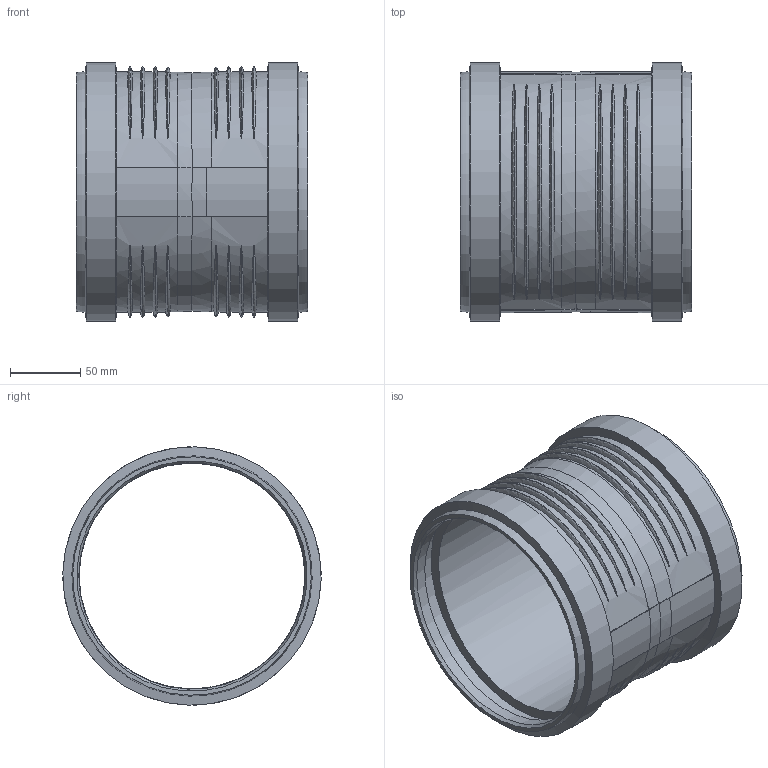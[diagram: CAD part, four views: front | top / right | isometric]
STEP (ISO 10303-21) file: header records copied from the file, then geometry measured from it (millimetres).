
FILE_DESCRIPTION(/* description */ (''),/* implementation_level */ '2;1');
FILE_NAME(/* name */ '390717.stp',/* time_stamp */ '2023-09-26T13:22:13+02:00',/* author */ ('JANAN'),/* organization */ (''),/* preprocessor_version */ 'ST-DEVELOPER v19.2',/* originating_system */ 'Autodesk Inventor 2023',/* authorisation */ '');
FILE_SCHEMA (('AUTOMOTIVE_DESIGN { 1 0 10303 214 3 1 1 }'));
Length unit declared in the file: millimetre
Products named in the file (1): tmpDF21.tmp
Bounding box: 165 x 184.45 x 184.45 mm (x, y, z)
Volume: 516606 mm3; surface area: 214052.8 mm2
Topology: 1 solids, 1 shells, 76 faces, 164 edges, 106 vertices
Faces by surface type: bspline 50, cone 10, cylinder 7, plane 6, torus 2, sphere 1
Full cylindrical faces by diameter (mm): 161.2 x1, 161.7 x2, 174.9 x2, 184.5 x2
Entity records: 8317 total; most frequent: CARTESIAN_POINT 6592, ORIENTED_EDGE 358, DIRECTION 284, EDGE_CURVE 179, VERTEX_POINT 133, AXIS2_PLACEMENT_3D 129, EDGE_LOOP 106, CIRCLE 102
